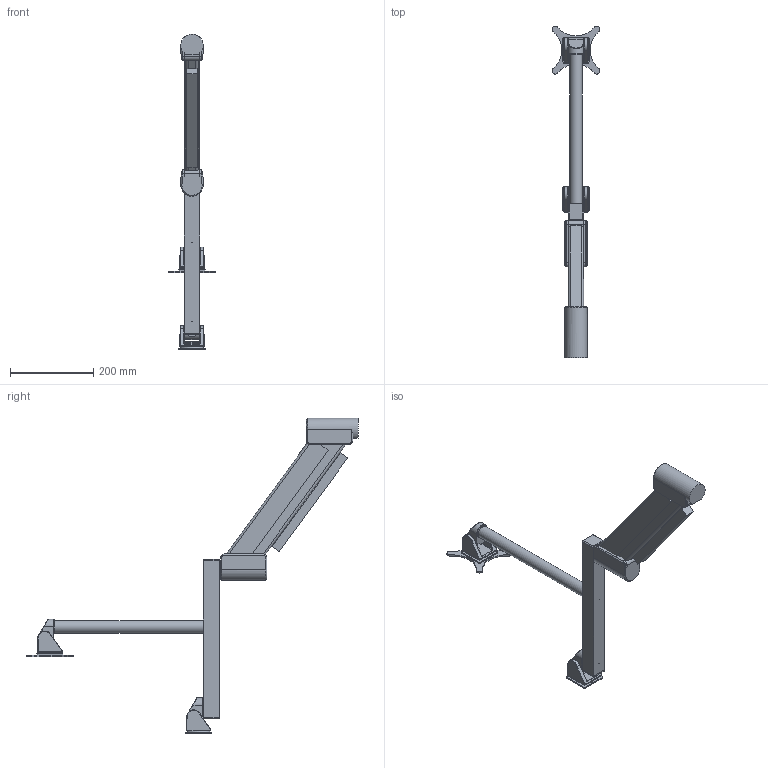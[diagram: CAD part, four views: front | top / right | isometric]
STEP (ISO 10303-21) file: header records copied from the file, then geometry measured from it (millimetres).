
FILE_DESCRIPTION((''),'2;1');
FILE_NAME('C:\Documents and Settings\abrey\Desktop\9139-10 Gen Ref (NEW STYLE)\9139-10 Gen Ref.stp','2010-04-20T14:19:28',('abrey'),(''),'Autodesk Inventor 2010','Autodesk Inventor 2010','');
FILE_SCHEMA(('AUTOMOTIVE_DESIGN { 1 0 10303 214 1 1 1 1 }'));
Length unit declared in the file: inch
Products named in the file (15): 9139-10 Gen Ref; 102502 Gen Ref; 102503 Gen Ref; 100538 Gen Ref; 100541 Gen Ref; 401136 Gen Ref; 700119 Gen Ref; 700088 Gen Ref; 700122 Gen Ref; 704060 Gen Ref; 108926 Gen Ref; 701161 Gen Ref; 105587gen ref; 109331 Gen Ref; 109334 Gen Ref
Assembly tree (19 placements, depth 2):
  9139-10 Gen Ref
    102502 Gen Ref
    102503 Gen Ref
    100538 Gen Ref
    100541 Gen Ref
    401136 Gen Ref
    700119 Gen Ref
    700088 Gen Ref  x2
    700122 Gen Ref  x2
    704060 Gen Ref  x2
    108926 Gen Ref  x2
    701161 Gen Ref  x2
    105587gen ref
    109331 Gen Ref
    109334 Gen Ref
Bounding box: 115.01 x 797.54 x 758.51 mm (x, y, z)
Volume: 3196519.1 mm3; surface area: 407087.5 mm2
Topology: 19 solids, 19 shells, 309 faces, 703 edges, 424 vertices
Faces by surface type: plane 114, cylinder 114, bspline 65, sphere 8, torus 6, cone 2
Full cylindrical faces by diameter (mm): 0.025 x8, 18.796 x4, 30.163 x1, 31.623 x1, 33.02 x2, 53.975 x2
Entity records: 7558 total; most frequent: CARTESIAN_POINT 2717, DIRECTION 898, ORIENTED_EDGE 870, EDGE_CURVE 435, AXIS2_PLACEMENT_3D 353, VERTEX_POINT 279, EDGE_LOOP 244, FACE_OUTER_BOUND 207
